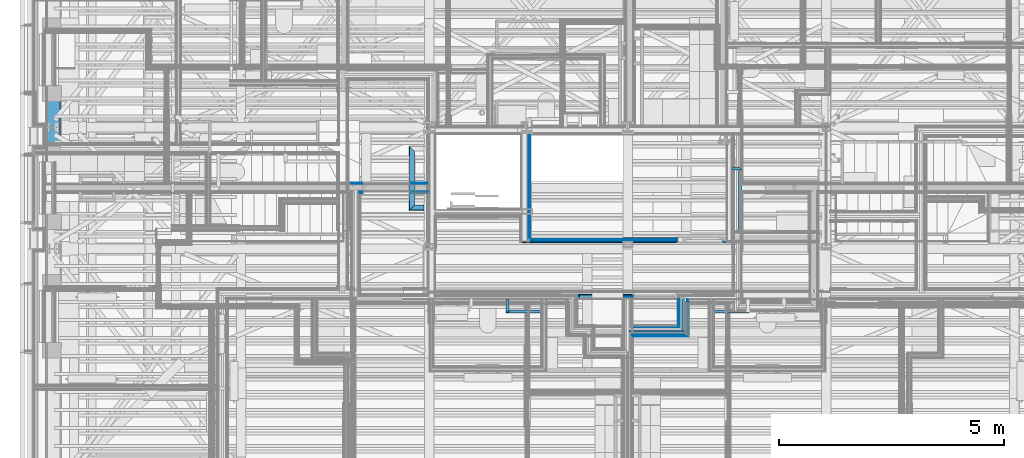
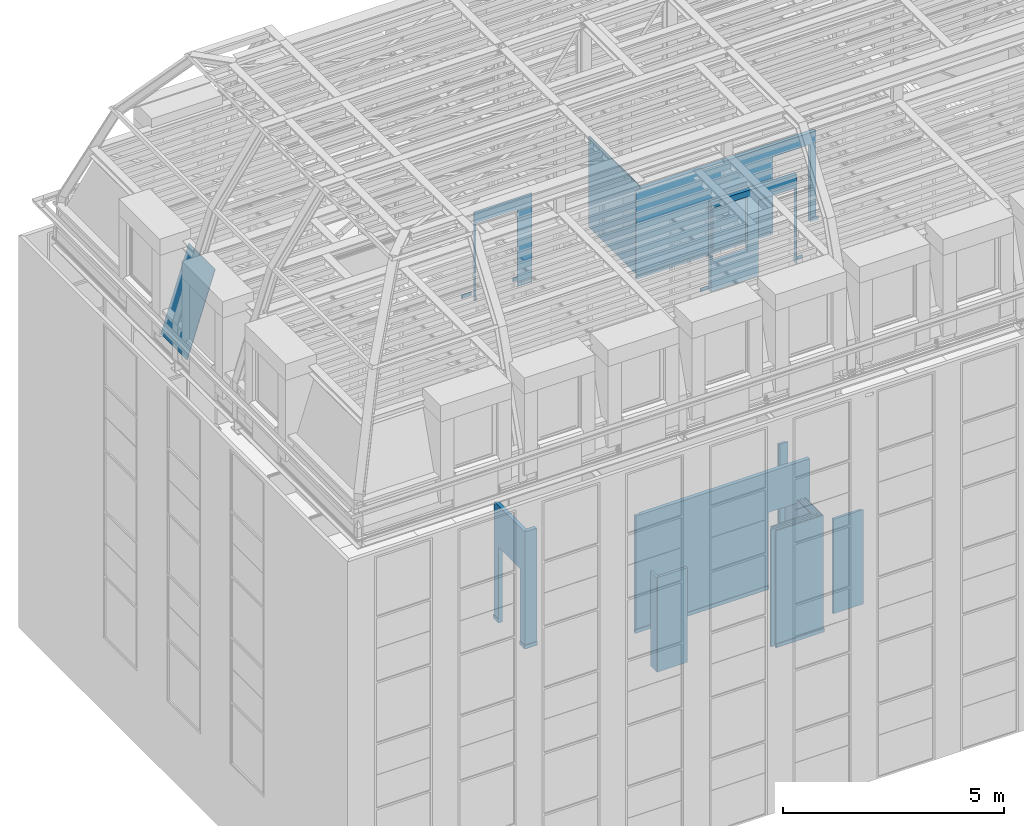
# One storey, part 15 of 183: 28 walls, 9 openings.
"""IFC2X3 building model written with IfcOpenShell, lengths in metres."""

from ifc_helpers import new_model, entity, si_unit, converted_unit, derived_unit, money_unit, direction, frame, frame_2d, origin_with_axes, place, context, subcontext, project, spatial, polyline, rectangle, outline, extrude, clip, bounded_halfspace, material, layer, layer_set, layer_usage, type_object, element, save


model = new_model("IFC2X3")

# Units and contexts
model_context = context("Model", 3, precision=1e-05, world=origin_with_axes(), true_north=direction((0.0, 1.0)))
body_context = subcontext(model_context, "Body", "Model", "MODEL_VIEW", scale=1.0)
ifc_project = project(units=[si_unit("LENGTHUNIT", "METRE"), si_unit("AREAUNIT", "SQUARE_METRE"), si_unit("VOLUMEUNIT", "CUBIC_METRE"), si_unit("ABSORBEDDOSEUNIT", "GRAY"), si_unit("AMOUNTOFSUBSTANCEUNIT", "MOLE"), si_unit("DOSEEQUIVALENTUNIT", "SIEVERT"), si_unit("ELECTRICCAPACITANCEUNIT", "FARAD"), si_unit("ELECTRICCHARGEUNIT", "COULOMB"), si_unit("ELECTRICCONDUCTANCEUNIT", "SIEMENS"), si_unit("ELECTRICCURRENTUNIT", "AMPERE"), si_unit("ELECTRICRESISTANCEUNIT", "OHM"), si_unit("ELECTRICVOLTAGEUNIT", "VOLT"), si_unit("ENERGYUNIT", "JOULE"), si_unit("FORCEUNIT", "NEWTON"), si_unit("FREQUENCYUNIT", "HERTZ"), si_unit("ILLUMINANCEUNIT", "LUX"), si_unit("INDUCTANCEUNIT", "HENRY"), si_unit("LUMINOUSFLUXUNIT", "LUMEN"), si_unit("LUMINOUSINTENSITYUNIT", "CANDELA"), si_unit("MAGNETICFLUXDENSITYUNIT", "TESLA"), si_unit("MAGNETICFLUXUNIT", "WEBER"), si_unit("MASSUNIT", "GRAM"), converted_unit("PLANEANGLEUNIT", "degree", entity("IfcReal", 0.0174532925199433), si_unit("PLANEANGLEUNIT", "RADIAN"), dimensions=[0, 0, 0, 0, 0, 0, 0]), si_unit("POWERUNIT", "WATT"), si_unit("PRESSUREUNIT", "PASCAL"), si_unit("RADIOACTIVITYUNIT", "BECQUEREL"), si_unit("SOLIDANGLEUNIT", "STERADIAN"), si_unit("THERMODYNAMICTEMPERATUREUNIT", "KELVIN"), si_unit("TIMEUNIT", "SECOND"), derived_unit("ACCELERATIONUNIT", [(si_unit("LENGTHUNIT", "METRE"), 1), (si_unit("TIMEUNIT", "SECOND"), -2)]), derived_unit("ANGULARVELOCITYUNIT", [(converted_unit("PLANEANGLEUNIT", "degree", entity("IfcReal", 0.0174532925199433), si_unit("PLANEANGLEUNIT", "RADIAN"), dimensions=[0, 0, 0, 0, 0, 0, 0]), 1), (si_unit("TIMEUNIT", "SECOND"), -1)]), derived_unit("CURVATUREUNIT", [(converted_unit("PLANEANGLEUNIT", "degree", entity("IfcReal", 0.0174532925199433), si_unit("PLANEANGLEUNIT", "RADIAN"), dimensions=[0, 0, 0, 0, 0, 0, 0]), 1), (si_unit("LENGTHUNIT", "METRE"), -1)]), derived_unit("DYNAMICVISCOSITYUNIT", [(si_unit("PRESSUREUNIT", "PASCAL"), 1), (si_unit("TIMEUNIT", "SECOND"), 1)]), derived_unit("HEATFLUXDENSITYUNIT", [(si_unit("POWERUNIT", "WATT"), 1), (si_unit("LENGTHUNIT", "METRE"), -2)]), derived_unit("HEATINGVALUEUNIT", [(si_unit("ENERGYUNIT", "JOULE"), 1), (si_unit("MASSUNIT", "GRAM"), -1)]), derived_unit("INTEGERCOUNTRATEUNIT", [(si_unit("TIMEUNIT", "SECOND"), -1)]), derived_unit("IONCONCENTRATIONUNIT", [(si_unit("MASSUNIT", "GRAM"), 1), (si_unit("VOLUMEUNIT", "CUBIC_METRE"), -1)]), derived_unit("ISOTHERMALMOISTURECAPACITYUNIT", [(si_unit("VOLUMEUNIT", "CUBIC_METRE"), 1), (si_unit("MASSUNIT", "GRAM"), -1)]), derived_unit("KINEMATICVISCOSITYUNIT", [(si_unit("AREAUNIT", "SQUARE_METRE"), 1), (si_unit("TIMEUNIT", "SECOND"), -1)]), derived_unit("LINEARFORCEUNIT", [(si_unit("FORCEUNIT", "NEWTON"), 1), (si_unit("LENGTHUNIT", "METRE"), -1)]), derived_unit("LINEARMOMENTUNIT", [(si_unit("FORCEUNIT", "NEWTON"), 1), (si_unit("LENGTHUNIT", "METRE"), -1)]), derived_unit("LINEARSTIFFNESSUNIT", [(si_unit("FORCEUNIT", "NEWTON"), 1), (si_unit("LENGTHUNIT", "METRE"), -1)]), derived_unit("LINEARVELOCITYUNIT", [(si_unit("LENGTHUNIT", "METRE"), 1), (si_unit("TIMEUNIT", "SECOND"), -1)]), derived_unit("LUMINOUSINTENSITYDISTRIBUTIONUNIT", [(si_unit("LUMINOUSINTENSITYUNIT", "CANDELA"), 1), (si_unit("LUMINOUSFLUXUNIT", "LUMEN"), -1)]), derived_unit("MASSDENSITYUNIT", [(si_unit("MASSUNIT", "GRAM"), 1), (si_unit("VOLUMEUNIT", "CUBIC_METRE"), -1)]), derived_unit("MASSFLOWRATEUNIT", [(si_unit("MASSUNIT", "GRAM"), 1), (si_unit("TIMEUNIT", "SECOND"), -1)]), derived_unit("MASSPERLENGTHUNIT", [(si_unit("MASSUNIT", "GRAM"), 1), (si_unit("LENGTHUNIT", "METRE"), -1)]), derived_unit("MODULUSOFELASTICITYUNIT", [(si_unit("FORCEUNIT", "NEWTON"), 1), (si_unit("AREAUNIT", "SQUARE_METRE"), -1)]), derived_unit("MODULUSOFLINEARSUBGRADEREACTIONUNIT", [(si_unit("FORCEUNIT", "NEWTON"), 1), (si_unit("LENGTHUNIT", "METRE"), -2)]), derived_unit("MODULUSOFROTATIONALSUBGRADEREACTIONUNIT", [(si_unit("FORCEUNIT", "NEWTON"), 1), (si_unit("LENGTHUNIT", "METRE"), 1)]), derived_unit("MODULUSOFSUBGRADEREACTIONUNIT", [(si_unit("FORCEUNIT", "NEWTON"), 1), (si_unit("VOLUMEUNIT", "CUBIC_METRE"), -1)]), derived_unit("MOISTUREDIFFUSIVITYUNIT", [(si_unit("VOLUMEUNIT", "CUBIC_METRE"), 1), (si_unit("TIMEUNIT", "SECOND"), -1)]), derived_unit("MOLECULARWEIGHTUNIT", [(si_unit("MASSUNIT", "GRAM"), 1), (si_unit("AMOUNTOFSUBSTANCEUNIT", "MOLE"), -1)]), derived_unit("PLANARFORCEUNIT", [(si_unit("FORCEUNIT", "NEWTON"), 1), (si_unit("LENGTHUNIT", "METRE"), -2)]), derived_unit("ROTATIONALFREQUENCYUNIT", [(si_unit("TIMEUNIT", "SECOND"), -1)]), derived_unit("ROTATIONALMASSUNIT", [(si_unit("MASSUNIT", "GRAM"), 1), (si_unit("LENGTHUNIT", "METRE"), 2)]), derived_unit("ROTATIONALSTIFFNESSUNIT", [(si_unit("FORCEUNIT", "NEWTON"), 1), (si_unit("LENGTHUNIT", "METRE"), 1), (converted_unit("PLANEANGLEUNIT", "degree", entity("IfcReal", 0.0174532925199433), si_unit("PLANEANGLEUNIT", "RADIAN"), dimensions=[0, 0, 0, 0, 0, 0, 0]), -1)]), derived_unit("SECTIONAREAINTEGRALUNIT", [(si_unit("LENGTHUNIT", "METRE"), 5)]), derived_unit("SECTIONMODULUSUNIT", [(si_unit("LENGTHUNIT", "METRE"), 3)]), derived_unit("SHEARMODULUSUNIT", [(si_unit("FORCEUNIT", "NEWTON"), 1), (si_unit("AREAUNIT", "SQUARE_METRE"), -1)]), derived_unit("SOUNDPOWERUNIT", [(si_unit("ENERGYUNIT", "JOULE"), 1), (si_unit("TIMEUNIT", "SECOND"), -1)]), derived_unit("SPECIFICHEATCAPACITYUNIT", [(si_unit("FORCEUNIT", "NEWTON"), 1), (si_unit("MASSUNIT", "GRAM"), -1), (si_unit("THERMODYNAMICTEMPERATUREUNIT", "KELVIN"), -1)]), derived_unit("TEMPERATUREGRADIENTUNIT", [(si_unit("THERMODYNAMICTEMPERATUREUNIT", "KELVIN"), 1), (si_unit("LENGTHUNIT", "METRE"), -1)]), derived_unit("THERMALADMITTANCEUNIT", [(si_unit("POWERUNIT", "WATT"), 1), (si_unit("AREAUNIT", "SQUARE_METRE"), -1), (si_unit("THERMODYNAMICTEMPERATUREUNIT", "KELVIN"), -1)]), derived_unit("THERMALCONDUCTANCEUNIT", [(si_unit("POWERUNIT", "WATT"), 1), (si_unit("LENGTHUNIT", "METRE"), -1), (si_unit("THERMODYNAMICTEMPERATUREUNIT", "KELVIN"), -1)]), derived_unit("THERMALEXPANSIONCOEFFICIENTUNIT", [(si_unit("THERMODYNAMICTEMPERATUREUNIT", "KELVIN"), -1)]), derived_unit("THERMALRESISTANCEUNIT", [(si_unit("AREAUNIT", "SQUARE_METRE"), 1), (si_unit("POWERUNIT", "WATT"), -1)]), derived_unit("THERMALTRANSMITTANCEUNIT", [(si_unit("POWERUNIT", "WATT"), 1), (si_unit("AREAUNIT", "SQUARE_METRE"), -1), (si_unit("THERMODYNAMICTEMPERATUREUNIT", "KELVIN"), -1)]), derived_unit("TORQUEUNIT", [(si_unit("FORCEUNIT", "NEWTON"), 1), (si_unit("LENGTHUNIT", "METRE"), 1)]), derived_unit("VAPORPERMEABILITYUNIT", [(si_unit("MASSUNIT", "GRAM"), 1), (si_unit("TIMEUNIT", "SECOND"), -1)]), derived_unit("VOLUMETRICFLOWRATEUNIT", [(si_unit("VOLUMEUNIT", "CUBIC_METRE"), 1), (si_unit("TIMEUNIT", "SECOND"), -1)]), derived_unit("WARPINGCONSTANTUNIT", [(si_unit("LENGTHUNIT", "METRE"), 6)]), derived_unit("WARPINGMOMENTUNIT", [(si_unit("FORCEUNIT", "NEWTON"), 1), (si_unit("LENGTHUNIT", "METRE"), 2)]), money_unit("GBP")], contexts=[model_context])

# Site, building, storey
site_placement = place(None, origin_with_axes())
site = spatial("IfcSite", under=ifc_project, at=site_placement, Name="Site", CompositionType="ELEMENT")
building_placement = place(site_placement, origin_with_axes())
building = spatial("IfcBuilding", under=site, at=building_placement, Name="Building01", CompositionType="ELEMENT")
storey_placement = place(building_placement, frame((0.0, 0.0, 5.15), z_axis=(0.0, 0.0, 1.0), x_axis=(1.0, 0.0, 0.0)))
storey = spatial("IfcBuildingStorey", under=building, at=storey_placement, Name="1F", CompositionType="ELEMENT", Elevation=5.15)

# Walls
ifc_material_1 = material(Name="A_BSUK_WallsInternal")
ifc_layer_1 = layer(ifc_material_1, 0.015, ventilated=False)
ifc_layer_set_1 = layer_set([ifc_layer_1])
ifc_layer_usage_1 = layer_usage(ifc_layer_set_1, "AXIS2", "POSITIVE", 0.0)
wall_type_1 = type_object("IfcWallType", Name="A-Walls-Internal", PredefinedType="NOTDEFINED")
for number, where, z_axis, x_axis, name in (
    (1, (11.3, 8.65, 9.73), (0.0, 0.0, 1.0), (0.0, -1.0, 0.0), "A-Walls-Internal"),
    (2, (11.315, 8.65, 9.73), (0.0, 0.0, 1.0), (0.0, -1.0, 0.0), "A-Walls-Internal"),
):
    element("IfcWallStandardCase", number, at=place(storey_placement, frame(where, z_axis=z_axis, x_axis=x_axis)), inside=storey, type_object=wall_type_1, material=ifc_layer_usage_1, Name=name, ObjectType="A-Walls-Internal", context=body_context, shape_type="SweptSolid", body=[
        extrude(rectangle(XDim=2.3, YDim=0.015, at=frame_2d((1.15, 0.0075), x_axis=(-1.0, 0.0))), origin_with_axes(), (0.0, 0.0, 1.0), 2.518),
    ])
ifc_material_2 = material(Name="A_BSUK_Walls_Timber")
ifc_layer_2 = layer(ifc_material_2, 0.015, ventilated=False)
ifc_material_3 = material(Name="A_BSUK_OpeningsClearance")
ifc_layer_3 = layer(ifc_material_3, 0.05, ventilated=False)
ifc_layer_set_2 = layer_set([ifc_layer_2, ifc_layer_3])
ifc_layer_usage_2 = layer_usage(ifc_layer_set_2, "AXIS2", "POSITIVE", 0.0)
wall_type_2 = type_object("IfcWallType", Name="SHE_A-Walls_Type05c_PreWallShell_65mm", PredefinedType="NOTDEFINED")
wall_1_placement = place(storey_placement, frame((15.815, 7.915, 0.0), z_axis=(0.0, 0.0, 1.0), x_axis=(1.0, 0.0, 0.0)))
element("IfcWallStandardCase", 3, at=wall_1_placement, inside=storey, type_object=wall_type_2, material=ifc_layer_usage_2, Name="5C", ObjectType="SHE_A-Walls_Type05c_PreWallShell_65mm", context=body_context, shape_type="SweptSolid", body=[
    extrude(outline(polyline([(0.17, 0.0), (0.0, 0.0), (0.0, -0.05), (0.03, -0.05), (0.03, -0.065), (0.235, -0.065), (0.17, 0.0)])), origin_with_axes(), (0.0, 0.0, 1.0), 2.615),
])
wall_2_placement = place(storey_placement, frame((15.965, 6.59, 0.0), z_axis=(0.0, 0.0, 1.0), x_axis=(0.0, 1.0, 0.0)))
element("IfcWallStandardCase", 4, at=wall_2_placement, inside=storey, type_object=wall_type_2, material=ifc_layer_usage_2, Name="5C", ObjectType="SHE_A-Walls_Type05c_PreWallShell_65mm", context=body_context, shape_type="SweptSolid", body=[
    extrude(outline(polyline([(1.275, -0.05), (1.275, 0.0), (-0.103, 0.0), (-0.103, -0.05), (-0.115, -0.05), (-0.115, -0.065), (1.325, -0.065), (1.325, -0.05), (1.275, -0.05)])), origin_with_axes(), (0.0, 0.0, 1.0), 1.375),
])
wall_3_placement = place(storey_placement, frame((15.4075, 4.745, 0.0), z_axis=(0.0, 0.0, 1.0), x_axis=(1.0, 0.0, 0.0)))
element("IfcWallStandardCase", 5, at=wall_3_placement, inside=storey, type_object=wall_type_2, material=ifc_layer_usage_2, Name="5C", ObjectType="SHE_A-Walls_Type05c_PreWallShell_65mm", context=body_context, shape_type="SweptSolid", body=[
    extrude(outline(polyline([(0.735, -0.05), (0.735, 0.0), (0.0, 0.0), (0.0, -0.065), (0.785, -0.065), (0.785, -0.05), (0.735, -0.05)])), origin_with_axes(), (0.0, 0.0, 1.0), 2.615),
])
wall_4_placement = place(storey_placement, frame((10.857536, 4.695, 0.0), z_axis=(0.0, 0.0, 1.0), x_axis=(0.0, -1.0, 0.0)))
element("IfcWallStandardCase", 6, at=wall_4_placement, inside=storey, type_object=wall_type_2, material=ifc_layer_usage_2, Name="5C", ObjectType="SHE_A-Walls_Type05c_PreWallShell_65mm", context=body_context, shape_type="SweptSolid", body=[
    extrude(outline(polyline([(0.015, -0.065), (0.015, -0.05), (0.0, -0.05), (0.0, 0.0), (-0.285, 0.0), (-0.285, -0.065), (0.015, -0.065)])), origin_with_axes(), (0.0, 0.0, 1.0), 2.615),
])
wall_5_placement = place(storey_placement, frame((11.592536, 4.745, 0.0), z_axis=(0.0, 0.0, 1.0), x_axis=(1.0, 0.0, 0.0)))
element("IfcWallStandardCase", 7, at=wall_5_placement, inside=storey, type_object=wall_type_2, material=ifc_layer_usage_2, Name="5C", ObjectType="SHE_A-Walls_Type05c_PreWallShell_65mm", context=body_context, shape_type="SweptSolid", body=[
    extrude(outline(polyline([(0.0, -0.065), (0.0, 0.0), (-0.735, 0.0), (-0.735, -0.05), (-0.785, -0.05), (-0.785, -0.065), (0.0, -0.065)])), origin_with_axes(), (0.0, 0.0, 1.0), 2.615),
])
ifc_material_4 = material(Name="A_BSUK_WallInternal_Finishes_Plasterboard")
ifc_layer_4 = layer(ifc_material_4, 0.015, ventilated=False)
ifc_layer_set_3 = layer_set([ifc_layer_4])
ifc_layer_usage_3 = layer_usage(ifc_layer_set_3, "AXIS2", "POSITIVE", 0.0)
wall_type_3 = type_object("IfcWallType", Name="default", PredefinedType="NOTDEFINED")
wall_6_placement = place(storey_placement, frame((14.625, 4.389428, 0.0), z_axis=(0.0, 0.0, 1.0), x_axis=(-1.0, 0.0, 0.0)))
element("IfcWallStandardCase", 8, at=wall_6_placement, inside=storey, type_object=wall_type_3, material=ifc_layer_usage_3, Name="default", ObjectType="default", context=body_context, shape_type="SweptSolid", body=[
    extrude(outline(polyline([(1.0275, 0.015), (-0.015, 0.015), (0.0, 0.0), (1.0275, 0.0), (1.0275, 0.015)])), origin_with_axes(), (0.0, 0.0, 1.0), 3.24),
])
wall_7_placement = place(storey_placement, frame((14.64, 4.374428, 0.0), z_axis=(0.0, 0.0, 1.0), x_axis=(-1.0, 0.0, 0.0)))
element("IfcWallStandardCase", 9, at=wall_7_placement, inside=storey, type_object=wall_type_3, material=ifc_layer_usage_3, Name="default", ObjectType="default", context=body_context, shape_type="SweptSolid", body=[
    extrude(outline(polyline([(1.0425, 0.015), (-0.015, 0.015), (0.0, 0.0), (1.0425, 0.0), (1.0425, 0.015)])), origin_with_axes(), (0.0, 0.0, 1.0), 3.24),
])
ifc_material_5 = material(Name="A_BSUK_Insulation")
ifc_layer_5 = layer(ifc_material_5, 0.05, ventilated=False)
ifc_layer_set_4 = layer_set([ifc_layer_5])
ifc_layer_usage_4 = layer_usage(ifc_layer_set_4, "AXIS2", "POSITIVE", 0.0)
wall_8_placement = place(storey_placement, frame((14.712, 4.302428, 0.0), z_axis=(0.0, 0.0, 1.0), x_axis=(-1.0, 0.0, 0.0)))
element("IfcWallStandardCase", 10, at=wall_8_placement, inside=storey, type_object=wall_type_3, material=ifc_layer_usage_4, Name="default", ObjectType="default", context=body_context, shape_type="SweptSolid", body=[
    extrude(outline(polyline([(1.1865, 0.05), (-0.05, 0.05), (0.0, 0.0), (1.1865, 0.0), (1.1865, 0.05)])), origin_with_axes(), (0.0, 0.0, 1.0), 3.24),
])
for number, where, z_axis, x_axis, name in (
    (11, (14.82, 4.194428, 0.0), (0.0, 0.0, 1.0), (-1.0, 0.0, 0.0), "default"),
    (12, (14.835, 4.179428, 0.0), (0.0, 0.0, 1.0), (-1.0, 0.0, 0.0), "default"),
):
    element("IfcWallStandardCase", number, at=place(storey_placement, frame(where, z_axis=z_axis, x_axis=x_axis)), inside=storey, type_object=wall_type_3, material=ifc_layer_usage_3, Name=name, ObjectType="default", context=body_context, shape_type="SweptSolid", body=[
        extrude(outline(polyline([(1.2225, 0.015), (-0.015, 0.015), (0.0, 0.0), (1.2225, 0.0), (1.2225, 0.015)])), origin_with_axes(), (0.0, 0.0, 1.0), 3.24),
    ])
ifc_layer_set_5 = layer_set([ifc_layer_2])
ifc_layer_usage_5 = layer_usage(ifc_layer_set_5, "AXIS2", "POSITIVE", 0.0)
wall_9_placement = place(storey_placement, frame((14.865, 4.164428, 0.015), z_axis=(0.0, 0.0, 1.0), x_axis=(-1.0, 0.0, 0.0)))
element("IfcWallStandardCase", 13, at=wall_9_placement, inside=storey, type_object=wall_type_3, material=ifc_layer_usage_5, Name="default", ObjectType="default", context=body_context, shape_type="SweptSolid", body=[
    extrude(rectangle(XDim=1.2375, YDim=0.015, at=frame_2d((0.61875, 0.0075), x_axis=(-1.0, 0.0))), origin_with_axes(), (0.0, 0.0, 1.0), 0.1),
])
wall_10_placement = place(storey_placement, frame((14.625, 4.98, 0.0), z_axis=(0.0, 0.0, 1.0), x_axis=(0.0, -1.0, 0.0)))
element("IfcWallStandardCase", 14, at=wall_10_placement, inside=storey, type_object=wall_type_3, material=ifc_layer_usage_3, Name="default", ObjectType="default", context=body_context, shape_type="SweptSolid", body=[
    extrude(outline(polyline([(0.605572, 0.015), (0.0, 0.015), (0.0, 0.0), (0.590572, 0.0), (0.605572, 0.015)])), origin_with_axes(), (0.0, 0.0, 1.0), 3.24),
])
wall_11_placement = place(storey_placement, frame((14.64, 4.98, 0.0), z_axis=(0.0, 0.0, 1.0), x_axis=(0.0, -1.0, 0.0)))
element("IfcWallStandardCase", 15, at=wall_11_placement, inside=storey, type_object=wall_type_3, material=ifc_layer_usage_3, Name="default", ObjectType="default", context=body_context, shape_type="SweptSolid", body=[
    extrude(outline(polyline([(0.620572, 0.015), (0.0, 0.015), (0.0, 0.0), (0.605572, 0.0), (0.620572, 0.015)])), origin_with_axes(), (0.0, 0.0, 1.0), 3.24),
])
wall_12_placement = place(storey_placement, frame((14.712, 4.98, 0.0), z_axis=(0.0, 0.0, 1.0), x_axis=(0.0, -1.0, 0.0)))
element("IfcWallStandardCase", 16, at=wall_12_placement, inside=storey, type_object=wall_type_3, material=ifc_layer_usage_4, Name="default", ObjectType="default", context=body_context, shape_type="SweptSolid", body=[
    extrude(outline(polyline([(0.727572, 0.05), (0.0, 0.05), (0.0, 0.0), (0.677572, 0.0), (0.727572, 0.05)])), origin_with_axes(), (0.0, 0.0, 1.0), 3.24),
])
wall_13_placement = place(storey_placement, frame((14.82, 4.98, 0.0), z_axis=(0.0, 0.0, 1.0), x_axis=(0.0, -1.0, 0.0)))
element("IfcWallStandardCase", 17, at=wall_13_placement, inside=storey, type_object=wall_type_3, material=ifc_layer_usage_3, Name="default", ObjectType="default", context=body_context, shape_type="SweptSolid", body=[
    extrude(outline(polyline([(0.800572, 0.015), (0.0, 0.015), (0.0, 0.0), (0.785572, 0.0), (0.800572, 0.015)])), origin_with_axes(), (0.0, 0.0, 1.0), 3.24),
])
wall_14_placement = place(storey_placement, frame((14.835, 4.98, 0.0), z_axis=(0.0, 0.0, 1.0), x_axis=(0.0, -1.0, 0.0)))
element("IfcWallStandardCase", 18, at=wall_14_placement, inside=storey, type_object=wall_type_3, material=ifc_layer_usage_3, Name="default", ObjectType="default", context=body_context, shape_type="SweptSolid", body=[
    extrude(outline(polyline([(0.815572, 0.015), (0.0, 0.015), (0.0, 0.0), (0.800572, 0.0), (0.815572, 0.015)])), origin_with_axes(), (0.0, 0.0, 1.0), 3.24),
])

# Wall, opening
placement_1 = place(storey_placement, frame((9.06, 7.349939, 9.795), z_axis=(0.0, 0.0, 1.0), x_axis=(-1.0, 0.0, 0.0)))
wall_15 = element("IfcWallStandardCase", 19, at=placement_1, inside=storey, type_object=wall_type_3, material=ifc_layer_usage_5, Name="default", ObjectType="default", context=body_context, shape_type="SweptSolid", body=[
    extrude(outline(polyline([(1.485, 0.015), (0.015, 0.015), (0.0, 0.0), (1.5, 0.0), (1.485, 0.015)])), origin_with_axes(), (0.0, 0.0, 1.0), 0.1),
])
placement_2 = place(placement_1, frame((0.374, 0.0, -0.015), z_axis=(0.0, 0.0, 1.0), x_axis=(1.0, 0.0, 0.0)))
element("IfcOpeningElement", 20, at=placement_2, cuts=wall_15, Name="Opening", ObjectType="Opening", context=body_context, shape_type="SweptSolid", body=[
    extrude(rectangle(XDim=2.142, YDim=1.084, at=frame_2d((-0.542, 1.071), x_axis=(0.0, -1.0))), frame((0.0, 0.0, 0.0), z_axis=(0.0, 1.0, 0.0), x_axis=(-1.0, 0.0, 0.0)), (0.0, 0.0, 1.0), 0.015),
])

wall_16_placement = place(storey_placement, frame((9.075, 7.364939, 9.78), z_axis=(0.0, 0.0, 1.0), x_axis=(-1.0, 0.0, 0.0)))
wall_16 = element("IfcWallStandardCase", 21, at=wall_16_placement, inside=storey, type_object=wall_type_3, material=ifc_layer_usage_3, Name="default", ObjectType="default", context=body_context, shape_type="SweptSolid", body=[
    extrude(outline(polyline([(1.53, 0.015), (0.015, 0.015), (0.0, 0.0), (1.53, 0.0), (1.53, 0.015)])), origin_with_axes(), (0.0, 0.0, 1.0), 2.468),
])
opening_2_placement = place(wall_16_placement, frame((0.389, 0.0, 0.0), z_axis=(0.0, 0.0, 1.0), x_axis=(1.0, 0.0, 0.0)))
element("IfcOpeningElement", 22, at=opening_2_placement, cuts=wall_16, Name="Opening", ObjectType="Opening", context=body_context, shape_type="SweptSolid", body=[
    extrude(rectangle(XDim=2.142, YDim=1.084, at=frame_2d((-0.542, 1.071), x_axis=(0.0, -1.0))), frame((0.0, 0.0, 0.0), z_axis=(0.0, 1.0, 0.0), x_axis=(-1.0, 0.0, 0.0)), (0.0, 0.0, 1.0), 0.015),
])

wall_17_placement = place(storey_placement, frame((9.045, 7.564939, 9.795), z_axis=(0.0, 0.0, 1.0), x_axis=(-1.0, 0.0, 0.0)))
wall_17 = element("IfcWallStandardCase", 23, at=wall_17_placement, inside=storey, type_object=wall_type_3, material=ifc_layer_usage_5, Name="default", ObjectType="default", context=body_context, shape_type="SweptSolid", body=[
    extrude(outline(polyline([(1.685, 0.015), (-0.015, 0.015), (0.0, 0.0), (1.7, 0.0), (1.685, 0.015)])), origin_with_axes(), (0.0, 0.0, 1.0), 0.1),
])
opening_3_placement = place(wall_17_placement, frame((0.359, 0.0, -0.015), z_axis=(0.0, 0.0, 1.0), x_axis=(1.0, 0.0, 0.0)))
element("IfcOpeningElement", 24, at=opening_3_placement, cuts=wall_17, Name="Opening", ObjectType="Opening", context=body_context, shape_type="SweptSolid", body=[
    extrude(rectangle(XDim=2.142, YDim=1.084, at=frame_2d((-0.542, 1.071), x_axis=(0.0, -1.0))), frame((0.0, 0.0, 0.0), z_axis=(0.0, 1.0, 0.0), x_axis=(-1.0, 0.0, 0.0)), (0.0, 0.0, 1.0), 0.015),
])

wall_18 = element("IfcWallStandardCase", 25, at=placement_1, inside=storey, type_object=wall_type_3, material=ifc_layer_usage_5, Name="default", ObjectType="default", context=body_context, shape_type="SweptSolid", body=[
    extrude(outline(polyline([(1.5, 0.015), (0.015, 0.015), (0.0, 0.0), (1.5, 0.0), (1.5, 0.015)])), origin_with_axes(), (0.0, 0.0, 1.0), 0.1),
])
element("IfcOpeningElement", 26, at=placement_2, cuts=wall_18, Name="Opening", ObjectType="Opening", context=body_context, shape_type="SweptSolid", body=[
    extrude(rectangle(XDim=2.142, YDim=1.084, at=frame_2d((-0.542, 1.071), x_axis=(0.0, -1.0))), frame((0.0, 0.0, 0.0), z_axis=(0.0, 1.0, 0.0), x_axis=(-1.0, 0.0, 0.0)), (0.0, 0.0, 1.0), 0.015),
])

# Wall
ifc_material_6 = material(Name="Air Cavity")
ifc_layer_6 = layer(ifc_material_6, 0.072, ventilated=False)
ifc_layer_set_6 = layer_set([ifc_layer_4, ifc_layer_6, ifc_layer_4, ifc_layer_2])
ifc_layer_usage_6 = layer_usage(ifc_layer_set_6, "AXIS2", "POSITIVE", 0.0)
wall_type_4 = type_object("IfcWallType", Name="SHE_A-Walls_Type04c_RiserWall_102mm_tall", PredefinedType="NOTDEFINED")
wall_19_placement = place(storey_placement, frame((8.975, 6.968405, 0.015), z_axis=(0.0, 0.0, 1.0), x_axis=(-1.0, 0.0, 0.0)))
element("IfcWallStandardCase", 27, at=wall_19_placement, inside=storey, type_object=wall_type_4, material=ifc_layer_usage_6, Name="4C", ObjectType="SHE_A-Walls_Type04c_RiserWall_102mm_tall", context=body_context, shape_type="Clipping", body=[
    clip(clip(extrude(outline(polyline([(0.332, 0.015), (0.0, 0.015), (0.0, -0.102), (0.215, -0.102), (0.332, 0.015)])), frame((0.0, 0.0, -0.015), z_axis=(0.0, 0.0, 1.0), x_axis=(1.0, 0.0, 0.0)), (0.0, 0.0, 1.0), 3.24), bounded_halfspace(frame((0.0, 0.0, 0.1), z_axis=(0.0, 0.0, 1.0), x_axis=(1.0, 0.0, 0.0)), False, frame((0.0, 0.0, 0.1), z_axis=(0.0, 0.0, 1.0), x_axis=(1.0, 0.0, 0.0)), polyline([(0.332, 0.015), (0.0, 0.015), (0.0, 0.0), (0.317, 0.0), (0.332, 0.015)]))), bounded_halfspace(frame((0.0, 0.0, 0.0), z_axis=(0.0, 0.0, -1.0), x_axis=(-1.0, 0.0, 0.0)), False, frame((0.0, 0.0, 0.0), z_axis=(0.0, 0.0, -1.0), x_axis=(-1.0, 0.0, 0.0)), polyline([(-0.317, 0.0), (0.0, 0.0), (0.0, 0.015), (-0.332, 0.015), (-0.317, 0.0)]))),
])

# Wall, opening
wall_20_placement = place(storey_placement, frame((8.658, 6.968405, 0.015), z_axis=(0.0, 0.0, 1.0), x_axis=(0.0, 1.0, 0.0)))
wall_20 = element("IfcWallStandardCase", 28, at=wall_20_placement, inside=storey, type_object=wall_type_4, material=ifc_layer_usage_6, Name="4C", ObjectType="SHE_A-Walls_Type04c_RiserWall_102mm_tall", context=body_context, shape_type="Clipping", body=[
    clip(clip(extrude(outline(polyline([(1.389, -0.015), (1.389, 0.0), (1.404, 0.0), (1.419, 0.015), (-0.015, 0.015), (0.102, -0.102), (1.302, -0.102), (1.389, -0.015)])), frame((0.0, 0.0, -0.015), z_axis=(0.0, 0.0, 1.0), x_axis=(1.0, 0.0, 0.0)), (0.0, 0.0, 1.0), 3.24), bounded_halfspace(frame((0.0, 0.0, 0.1), z_axis=(0.0, 0.0, 1.0), x_axis=(1.0, 0.0, 0.0)), False, frame((0.0, 0.0, 0.1), z_axis=(0.0, 0.0, 1.0), x_axis=(1.0, 0.0, 0.0)), polyline([(1.419, 0.015), (-0.015, 0.015), (0.0, 0.0), (1.404, 0.0), (1.419, 0.015)]))), bounded_halfspace(frame((0.0, 0.0, 0.0), z_axis=(0.0, 0.0, -1.0), x_axis=(-1.0, 0.0, 0.0)), False, frame((0.0, 0.0, 0.0), z_axis=(0.0, 0.0, -1.0), x_axis=(-1.0, 0.0, 0.0)), polyline([(-1.404, 0.0), (0.0, 0.0), (0.015, 0.015), (-1.419, 0.015), (-1.404, 0.0)]))),
])
opening_5_placement = place(wall_20_placement, frame((0.21, -0.102, -0.015), z_axis=(0.0, 0.0, 1.0), x_axis=(1.0, 0.0, 0.0)))
element("IfcOpeningElement", 29, at=opening_5_placement, cuts=wall_20, Name="Opening", ObjectType="Opening", context=body_context, shape_type="SweptSolid", body=[
    extrude(rectangle(XDim=0.984, YDim=2.1, at=frame_2d((-0.492, 1.05), x_axis=(1.0, 0.0))), frame((0.0, 0.0, 0.0), z_axis=(0.0, 1.0, 0.0), x_axis=(-1.0, 0.0, 0.0)), (0.0, 0.0, 1.0), 0.117),
])

ifc_layer_7 = layer(ifc_material_4, 0.013, ventilated=False)
ifc_layer_8 = layer(ifc_material_4, 0.012, ventilated=False)
ifc_layer_9 = layer(ifc_material_6, 0.05, ventilated=False)
ifc_layer_set_7 = layer_set([ifc_layer_2, ifc_layer_7, ifc_layer_8, ifc_layer_9, ifc_layer_8, ifc_layer_7])
ifc_layer_usage_7 = layer_usage(ifc_layer_set_7, "AXIS2", "POSITIVE", 0.0)
wall_type_5 = type_object("IfcWallType", Name="SHE_A-Walls_Type03c_Firewall_F120_100mm", PredefinedType="NOTDEFINED")
wall_21_placement = place(storey_placement, frame((11.115, 6.25, 0.015), z_axis=(0.0, 0.0, 1.0), x_axis=(1.0, 0.0, 0.0)))
wall_21 = element("IfcWallStandardCase", 30, at=wall_21_placement, inside=storey, type_object=wall_type_5, material=ifc_layer_usage_7, Name="3C", ObjectType="SHE_A-Walls_Type03c_Firewall_F120_100mm", context=body_context, shape_type="Clipping", body=[
    clip(clip(extrude(outline(polyline([(4.585, 0.0), (4.585, 0.1), (0.185, 0.1), (0.185, 0.075), (0.03, 0.075), (0.03, 0.0), (0.0, 0.0), (0.0, -0.015), (4.57, -0.015), (4.585, 0.0)])), frame((0.0, 0.0, -0.015), z_axis=(0.0, 0.0, 1.0), x_axis=(1.0, 0.0, 0.0)), (0.0, 0.0, 1.0), 3.24), bounded_halfspace(frame((0.0, 0.0, 0.1), z_axis=(0.0, 0.0, 1.0), x_axis=(1.0, 0.0, 0.0)), False, frame((0.0, 0.0, 0.1), z_axis=(0.0, 0.0, 1.0), x_axis=(1.0, 0.0, 0.0)), polyline([(4.585, 0.0), (0.0, 0.0), (0.0, -0.015), (4.57, -0.015), (4.585, 0.0)]))), bounded_halfspace(frame((0.0, 0.0, 0.0), z_axis=(0.0, 0.0, -1.0), x_axis=(-1.0, 0.0, 0.0)), False, frame((0.0, 0.0, 0.0), z_axis=(0.0, 0.0, -1.0), x_axis=(-1.0, 0.0, 0.0)), polyline([(-4.57, -0.015), (0.0, -0.015), (0.0, 0.0), (-4.585, 0.0), (-4.57, -0.015)]))),
])
opening_6_placement = place(wall_21_placement, frame((3.501, -0.015, -0.03), z_axis=(0.0, 0.0, 1.0), x_axis=(1.0, 0.0, 0.0)))
element("IfcOpeningElement", 31, at=opening_6_placement, cuts=wall_21, Name="Opening", ObjectType="Opening", context=body_context, shape_type="SweptSolid", body=[
    extrude(rectangle(XDim=2.142, YDim=0.984, at=frame_2d((-0.492, 1.071), x_axis=(0.0, 1.0))), frame((0.0, 0.0, 0.0), z_axis=(0.0, 1.0, 0.0), x_axis=(-1.0, 0.0, 0.0)), (0.0, 0.0, 1.0), 0.115),
])

wall_22_placement = place(storey_placement, frame((11.16, 6.25, 9.795), z_axis=(0.0, 0.0, 1.0), x_axis=(1.0, 0.0, 0.0)))
wall_22 = element("IfcWallStandardCase", 32, at=wall_22_placement, inside=storey, type_object=wall_type_5, material=ifc_layer_usage_7, Name="3C", ObjectType="SHE_A-Walls_Type03c_Firewall_F120_100mm", context=body_context, shape_type="Clipping", body=[
    clip(clip(extrude(outline(polyline([(4.67844, 0.0), (4.67844, 0.013), (4.70844, 0.013), (4.70844, 0.075), (4.69344, 0.087), (4.69344, 0.1), (0.14, 0.1), (0.14, 0.013), (-0.015, 0.013), (-0.015, 0.0), (0.0, 0.0), (0.0, -0.015), (4.75344, -0.015), (4.75344, 0.0), (4.67844, 0.0)])), frame((0.0, 0.0, -0.015), z_axis=(0.0, 0.0, 1.0), x_axis=(1.0, 0.0, 0.0)), (0.0, 0.0, 1.0), 2.468), bounded_halfspace(frame((0.0, 0.0, 0.1), z_axis=(0.0, 0.0, 1.0), x_axis=(1.0, 0.0, 0.0)), False, frame((0.0, 0.0, 0.1), z_axis=(0.0, 0.0, 1.0), x_axis=(1.0, 0.0, 0.0)), polyline([(4.75344, 0.0), (0.0, 0.0), (0.0, -0.015), (4.75344, -0.015), (4.75344, 0.0)]))), bounded_halfspace(frame((0.0, 0.0, 0.0), z_axis=(0.0, 0.0, -1.0), x_axis=(-1.0, 0.0, 0.0)), False, frame((0.0, 0.0, 0.0), z_axis=(0.0, 0.0, -1.0), x_axis=(-1.0, 0.0, 0.0)), polyline([(-4.75344, -0.015), (0.0, -0.015), (0.0, 0.0), (-4.75344, 0.0), (-4.75344, -0.015)]))),
])
opening_7_placement = place(wall_22_placement, frame((3.56744, -0.015, -0.03), z_axis=(0.0, 0.0, 1.0), x_axis=(1.0, 0.0, 0.0)))
element("IfcOpeningElement", 33, at=opening_7_placement, cuts=wall_22, Name="Opening", ObjectType="Opening", context=body_context, shape_type="SweptSolid", body=[
    extrude(outline(polyline([(0.0, 0.0), (0.0, 2.157), (-0.984, 2.157), (-0.984, 0.015), (-0.91756, 0.015), (-0.91756, 0.0), (0.0, 0.0)])), frame((0.0, 0.0, 0.0), z_axis=(0.0, 1.0, 0.0), x_axis=(-1.0, 0.0, 0.0)), (0.0, 0.0, 1.0), 0.115),
    extrude(rectangle(XDim=0.984, YDim=2.157, at=frame_2d((-0.492, 1.0785), x_axis=(1.0, 0.0))), frame((0.0, 0.015, 0.0), z_axis=(0.0, 1.0, 0.0), x_axis=(-1.0, 0.0, 0.0)), (0.0, 0.0, 1.0), 0.013),
    extrude(outline(polyline([(0.0, 2.142), (0.0, 2.157), (-0.984, 2.157), (-0.984, 0.015), (-0.91756, 0.015), (-0.91756, 0.0), (0.06644, 0.0), (0.06644, 2.142), (0.0, 2.142)])), frame((0.0, 0.0, 0.0), z_axis=(0.0, 1.0, 0.0), x_axis=(-1.0, 0.0, 0.0)), (0.0, 0.0, 1.0), 0.015),
    extrude(rectangle(XDim=0.984, YDim=2.157, at=frame_2d((-0.492, 1.0785), x_axis=(1.0, 0.0))), frame((0.0, 0.028, 0.0), z_axis=(0.0, 1.0, 0.0), x_axis=(-1.0, 0.0, 0.0)), (0.0, 0.0, 1.0), 0.012),
    extrude(rectangle(XDim=0.984, YDim=2.157, at=frame_2d((-0.492, 1.0785), x_axis=(1.0, 0.0))), frame((0.0, 0.04, 0.0), z_axis=(0.0, 1.0, 0.0), x_axis=(-1.0, 0.0, 0.0)), (0.0, 0.0, 1.0), 0.05),
    extrude(rectangle(XDim=0.984, YDim=2.157, at=frame_2d((-0.492, 1.0785), x_axis=(1.0, 0.0))), frame((0.0, 0.09, 0.0), z_axis=(0.0, 1.0, 0.0), x_axis=(-1.0, 0.0, 0.0)), (0.0, 0.0, 1.0), 0.012),
    extrude(rectangle(XDim=0.984, YDim=2.157, at=frame_2d((-0.492, 1.0785), x_axis=(1.0, 0.0))), frame((0.0, 0.102, 0.0), z_axis=(0.0, 1.0, 0.0), x_axis=(-1.0, 0.0, 0.0)), (0.0, 0.0, 1.0), 0.013),
])

# Wall, openings
ifc_layer_set_8 = layer_set([ifc_layer_7, ifc_layer_8, ifc_layer_9, ifc_layer_8, ifc_layer_7, ifc_layer_2])
ifc_layer_usage_8 = layer_usage(ifc_layer_set_8, "AXIS2", "POSITIVE", 0.0)
wall_23_placement = place(storey_placement, frame((12.175, 5.08, 9.795), z_axis=(0.0, 0.0, 1.0), x_axis=(1.0, 0.0, 0.0)))
wall_23 = element("IfcWallStandardCase", 34, at=wall_23_placement, inside=storey, type_object=wall_type_5, material=ifc_layer_usage_8, Name="3C", ObjectType="SHE_A-Walls_Type03c_Firewall_F120_100mm", context=body_context, shape_type="Clipping", body=[
    clip(clip(extrude(outline(polyline([(2.45, 0.0), (2.65, 0.0), (2.665, 0.015), (-0.015, 0.015), (0.0, 0.0), (0.2, 0.0), (0.2, -0.1), (2.45, -0.1), (2.45, 0.0)])), frame((0.0, 0.0, -0.015), z_axis=(0.0, 0.0, 1.0), x_axis=(1.0, 0.0, 0.0)), (0.0, 0.0, 1.0), 2.468), bounded_halfspace(frame((0.0, 0.0, 0.1), z_axis=(0.0, 0.0, 1.0), x_axis=(1.0, 0.0, 0.0)), False, frame((0.0, 0.0, 0.1), z_axis=(0.0, 0.0, 1.0), x_axis=(1.0, 0.0, 0.0)), polyline([(2.665, 0.015), (-0.015, 0.015), (0.0, 0.0), (2.65, 0.0), (2.665, 0.015)]))), bounded_halfspace(frame((0.0, 0.0, 0.0), z_axis=(0.0, 0.0, -1.0), x_axis=(-1.0, 0.0, 0.0)), False, frame((0.0, 0.0, 0.0), z_axis=(0.0, 0.0, -1.0), x_axis=(-1.0, 0.0, 0.0)), polyline([(-2.65, 0.0), (0.0, 0.0), (0.015, 0.015), (-2.665, 0.015), (-2.65, 0.0)]))),
])
opening_8_placement = place(wall_23_placement, frame((1.45, -0.1, -0.045), z_axis=(0.0, 0.0, 1.0), x_axis=(1.0, 0.0, 0.0)))
element("IfcOpeningElement", 35, at=opening_8_placement, cuts=wall_23, Name="Opening", ObjectType="Opening", context=body_context, shape_type="SweptSolid", body=[
    extrude(rectangle(XDim=0.984, YDim=2.13, at=frame_2d((-0.492, 1.065), x_axis=(1.0, 0.0))), frame((0.0, 0.0, 0.0), z_axis=(0.0, 1.0, 0.0), x_axis=(-1.0, 0.0, 0.0)), (0.0, 0.0, 1.0), 0.115),
])
opening_9_placement = place(wall_23_placement, frame((0.258, -0.1, 0.785), z_axis=(0.0, 0.0, 1.0), x_axis=(1.0, 0.0, 0.0)))
element("IfcOpeningElement", 36, at=opening_9_placement, cuts=wall_23, Name="Opening", ObjectType="Recess", context=body_context, shape_type="SweptSolid", body=[
    extrude(rectangle(XDim=1.5, YDim=0.9, at=frame_2d((-0.45, 0.75), x_axis=(0.0, 1.0))), frame((0.0, 0.0, 0.0), z_axis=(0.0, 1.0, 0.0), x_axis=(-1.0, 0.0, 0.0)), (0.0, 0.0, 1.0), 0.1),
])

# Wall
wall_type_6 = type_object("IfcWallType", Name="A-Walls-Internal", PredefinedType="NOTDEFINED")
wall_24_placement = place(storey_placement, frame((0.5788, 9.474964, 10.03), z_axis=(0.30901699, 0.0, 0.95105652), x_axis=(0.0, -1.0, 0.0)))
element("IfcWall", 37, at=wall_24_placement, inside=storey, type_object=wall_type_6, material=ifc_material_1, Name="7C", ObjectType="A-Walls-Internal", context=body_context, shape_type="SweptSolid", body=[
    extrude(rectangle(XDim=1.200049, YDim=0.015, at=frame_2d((0.600024, 0.0075), x_axis=(-1.0, 0.0))), origin_with_axes(), (0.0, 0.0, 1.0), 2.373987),
])

save(model, "model.ifc")
